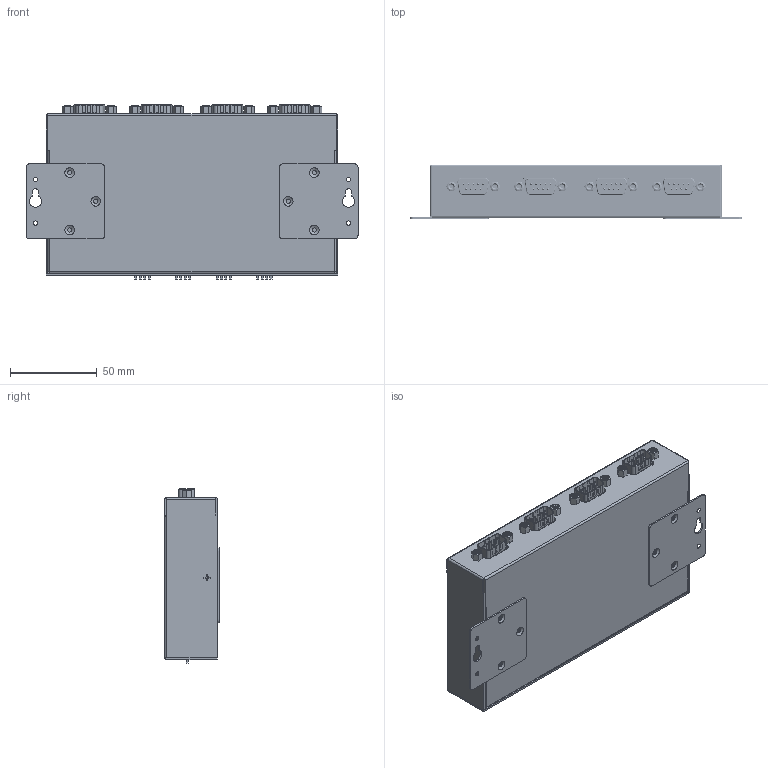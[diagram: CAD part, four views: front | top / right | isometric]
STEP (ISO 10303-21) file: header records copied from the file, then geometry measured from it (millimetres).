
FILE_DESCRIPTION(/* description */ (''),/* implementation_level */ '2;1');
FILE_NAME(/* name */ 'C:/Users/Leo/Desktop/AA CoolGear CADs/USB-4COMi-M/USB-4COMi-M Model3D LPV1.step',/* time_stamp */ '2021-08-02T13:29:12-04:00',/* author */ (''),/* organization */ (''),/* preprocessor_version */ 'ST-DEVELOPER v18.1',/* originating_system */ 'Autodesk Translation Framework v10.9.0.1377',/* authorisation */ '');
FILE_SCHEMA (('AUTOMOTIVE_DESIGN { 1 0 10303 214 3 1 1 }'));
Products named in the file (21): USB-4COMi-M; Component4; 5063N12_Circuit Board D-Sub Connector; 5063N12_Circuit Board D-Sub Connector(Mirror); Terminator v1; Connector Volts Black plastic v2; Component1 (1); Component2; Component3 (1); Component4 (1); USB type B first Gen White v3; Housing1; pin1; shielding; pin2; shielding_2; Housing3; Bolt M3X0.5 90Angle head.5-4mmL v1; Mounting plate SideR v1; Mounting plate SideR v1(Mirror); Component24
Assembly tree (30 placements, depth 3):
  USB-4COMi-M
    Component4
    5063N12_Circuit Board D-Sub Connector  x2
    5063N12_Circuit Board D-Sub Connector(Mirror)  x2
    Terminator v1  x4
    Connector Volts Black plastic v2
      Component1 (1)
      Component2
      Component3 (1)
      Component4 (1)
    USB type B first Gen White v3
      Housing1
      pin1  x2
      shielding
      pin2  x2
      shielding_2
      Housing3
    Bolt M3X0.5 90Angle head.5-4mmL v1  x4
    Mounting plate SideR v1
    Mounting plate SideR v1(Mirror)
    Component24
Bounding box: 191.1 x 31.26 x 100.17 mm (x, y, z)
Volume: 68089.8 mm3; surface area: 119225 mm2
Topology: 9 solids, 10 shells, 3530 faces, 9927 edges, 6426 vertices
Faces by surface type: plane 2588, cylinder 731, bspline 74, cone 59, sphere 40, torus 38
Full cylindrical faces by diameter (mm): 1 x36, 1.679 x1, 2.16 x1, 2.221 x96, 2.323 x12, 2.529 x16, 3 x107, 3.54 x1, 5 x8, 5.04 x2, 5.48 x8, 6 x1
Entity records: 142836 total; most frequent: CARTESIAN_POINT 52161, ORIENTED_EDGE 19774, DIRECTION 17221, EDGE_CURVE 9887, LINE 7699, VECTOR 7699, VERTEX_POINT 6426, AXIS2_PLACEMENT_3D 4761
